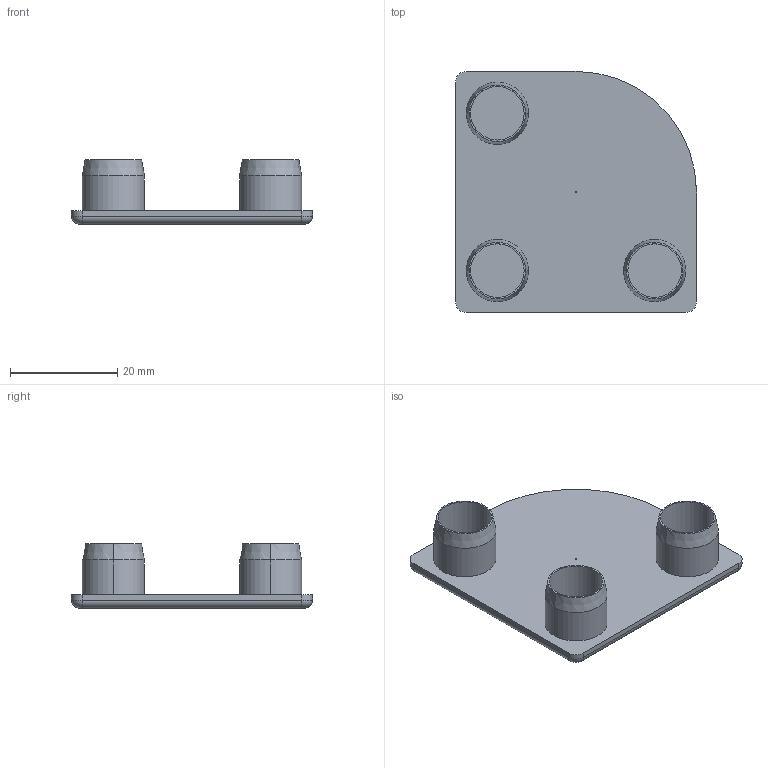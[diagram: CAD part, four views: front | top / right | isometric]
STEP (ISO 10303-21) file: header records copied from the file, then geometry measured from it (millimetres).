
FILE_DESCRIPTION (( 'STEP AP214' ), '1' );
FILE_NAME ('SL01015.step', '2024-12-03T16:30:44', ( '' ), ( '' ), 'SwSTEP 2.0', 'SolidWorks 2023', '' );
FILE_SCHEMA (( 'AUTOMOTIVE_DESIGN' ));
Length unit declared in the file: millimetre
Products named in the file (1): SL01015
Bounding box: 45 x 45 x 12 mm (x, y, z)
Volume: 5393.9 mm3; surface area: 6006.7 mm2
Topology: 1 solids, 1 shells, 44 faces, 91 edges, 56 vertices
Faces by surface type: cylinder 21, plane 13, cone 6, torus 3, bspline 1
Full cylindrical faces by diameter (mm): 0.2 x1
Entity records: 1203 total; most frequent: DIRECTION 228, CARTESIAN_POINT 209, ORIENTED_EDGE 180, AXIS2_PLACEMENT_3D 95, EDGE_CURVE 90, VERTEX_POINT 56, EDGE_LOOP 52, CIRCLE 51
